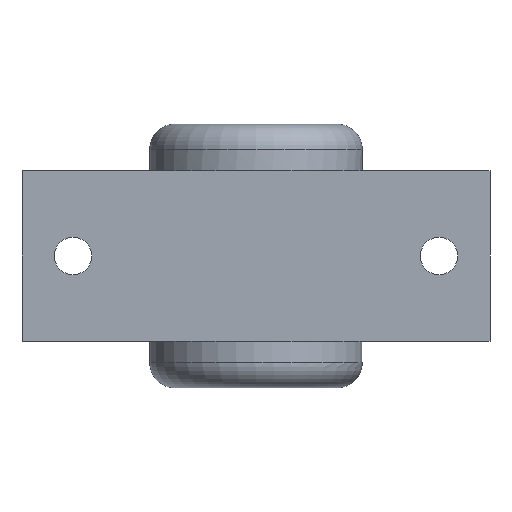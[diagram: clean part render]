
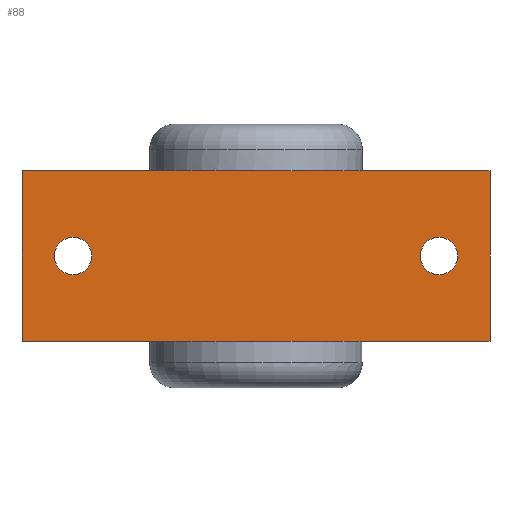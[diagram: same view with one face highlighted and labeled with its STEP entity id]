
A CAD part, front view. The second image highlights one B-rep face of the part: STEP entity #88.
In plain terms, the highlighted planar face has unit normal (0, -1, 0).
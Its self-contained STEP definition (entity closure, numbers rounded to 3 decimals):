
#88=ADVANCED_FACE('',(#167,#168,#169),#170,.T.);
#167=FACE_BOUND('',#308,.T.);
#168=FACE_OUTER_BOUND('',#309,.T.);
#169=FACE_BOUND('',#310,.T.);
#170=PLANE('',#311);
#308=EDGE_LOOP('',(#524));
#309=EDGE_LOOP('',(#525,#526,#527,#528));
#310=EDGE_LOOP('',(#529));
#311=AXIS2_PLACEMENT_3D('',#530,#531,#532);
#524=ORIENTED_EDGE('',*,*,#958,.T.);
#525=ORIENTED_EDGE('',*,*,#959,.F.);
#526=ORIENTED_EDGE('',*,*,#960,.F.);
#527=ORIENTED_EDGE('',*,*,#961,.T.);
#528=ORIENTED_EDGE('',*,*,#962,.T.);
#529=ORIENTED_EDGE('',*,*,#963,.T.);
#530=CARTESIAN_POINT('',(27.5,0.,10.0));
#531=DIRECTION('',(0.0,-1.0,0.0));
#532=DIRECTION('',(1.0,0.0,0.0));
#958=EDGE_CURVE('',#1154,#1154,#1155,.F.);
#959=EDGE_CURVE('',#1156,#1157,#1158,.T.);
#960=EDGE_CURVE('',#1159,#1156,#1160,.T.);
#961=EDGE_CURVE('',#1159,#1161,#1162,.T.);
#962=EDGE_CURVE('',#1161,#1157,#1163,.T.);
#963=EDGE_CURVE('',#1164,#1164,#1165,.F.);
#1154=VERTEX_POINT('',#1451);
#1155=CIRCLE('',#1452,2.2);
#1156=VERTEX_POINT('',#1453);
#1157=VERTEX_POINT('',#1454);
#1158=LINE('',#1455,#1456);
#1159=VERTEX_POINT('',#1457);
#1160=LINE('',#1458,#1459);
#1161=VERTEX_POINT('',#1460);
#1162=LINE('',#1461,#1462);
#1163=LINE('',#1463,#1464);
#1164=VERTEX_POINT('',#1465);
#1165=CIRCLE('',#1466,2.2);
#1451=CARTESIAN_POINT('',(-21.5,0.0,-2.2));
#1452=AXIS2_PLACEMENT_3D('',#1777,#1778,#1779);
#1453=CARTESIAN_POINT('',(27.5,0.,-10.0));
#1454=CARTESIAN_POINT('',(-27.5,0.,-10.0));
#1455=CARTESIAN_POINT('',(27.5,0.,-10.0));
#1456=VECTOR('',#1780,1.0);
#1457=CARTESIAN_POINT('',(27.5,0.,10.0));
#1458=CARTESIAN_POINT('',(27.5,0.,10.0));
#1459=VECTOR('',#1781,1.0);
#1460=CARTESIAN_POINT('',(-27.5,0.,10.0));
#1461=CARTESIAN_POINT('',(27.5,0.,10.0));
#1462=VECTOR('',#1782,1.0);
#1463=CARTESIAN_POINT('',(-27.5,0.,10.0));
#1464=VECTOR('',#1783,1.0);
#1465=CARTESIAN_POINT('',(21.5,0.0,-2.2));
#1466=AXIS2_PLACEMENT_3D('',#1784,#1785,#1786);
#1777=CARTESIAN_POINT('',(-21.5,0.0,0.0));
#1778=DIRECTION('',(0.0,-1.0,0.0));
#1779=DIRECTION('',(0.0,0.0,-1.0));
#1780=DIRECTION('',(-1.0,0.,0.0));
#1781=DIRECTION('',(0.0,0.0,-1.0));
#1782=DIRECTION('',(-1.0,0.,0.0));
#1783=DIRECTION('',(0.0,0.0,-1.0));
#1784=CARTESIAN_POINT('',(21.5,0.0,0.0));
#1785=DIRECTION('',(0.0,-1.0,0.0));
#1786=DIRECTION('',(0.0,0.0,-1.0));
